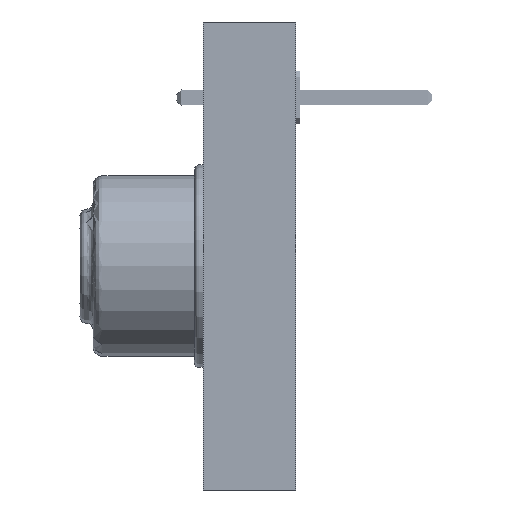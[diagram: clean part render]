
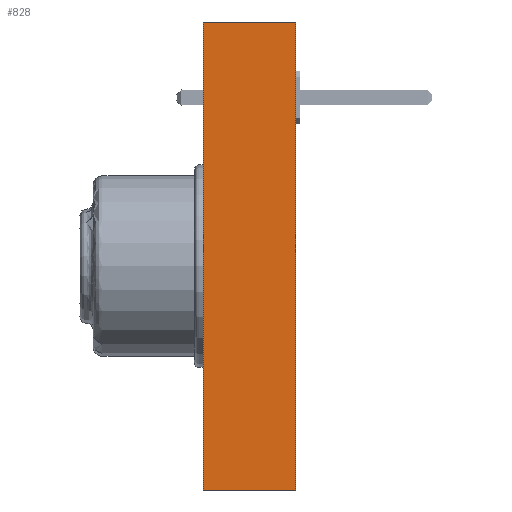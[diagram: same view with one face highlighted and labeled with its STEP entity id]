
A CAD part, left-side view. The second image highlights one B-rep face of the part: STEP entity #828.
In plain terms, the highlighted planar face has unit normal (-1, 0, 0).
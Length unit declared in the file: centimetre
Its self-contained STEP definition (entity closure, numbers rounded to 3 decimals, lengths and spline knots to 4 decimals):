
#12=LINE('',#1318,#108);
#13=LINE('',#1321,#109);
#14=LINE('',#1323,#110);
#15=LINE('',#1325,#111);
#108=VECTOR('',#1087,100.);
#109=VECTOR('',#1088,100.);
#110=VECTOR('',#1089,100.);
#111=VECTOR('',#1090,100.);
#204=PLANE('',#992);
#246=ORIENTED_EDGE('',*,*,#470,.F.);
#247=ORIENTED_EDGE('',*,*,#471,.T.);
#248=ORIENTED_EDGE('',*,*,#472,.T.);
#249=ORIENTED_EDGE('',*,*,#473,.F.);
#470=EDGE_CURVE('',#582,#583,#12,.T.);
#471=EDGE_CURVE('',#582,#584,#13,.T.);
#472=EDGE_CURVE('',#584,#585,#14,.T.);
#473=EDGE_CURVE('',#583,#585,#15,.T.);
#582=VERTEX_POINT('',#1319);
#583=VERTEX_POINT('',#1320);
#584=VERTEX_POINT('',#1322);
#585=VERTEX_POINT('',#1324);
#678=EDGE_LOOP('',(#246,#247,#248,#249));
#750=FACE_BOUND('',#678,.T.);
#828=ADVANCED_FACE('',(#750),#204,.T.);
#992=AXIS2_PLACEMENT_3D('',#1317,#1085,#1086);
#1085=DIRECTION('',(-1.,0.,0.));
#1086=DIRECTION('',(0.,1.,0.));
#1087=DIRECTION('',(0.,1.,0.));
#1088=DIRECTION('',(0.,0.,1.));
#1089=DIRECTION('',(0.,1.,0.));
#1090=DIRECTION('',(0.,0.,1.));
#1317=CARTESIAN_POINT('',(-0.2184,-0.4,0.8589));
#1318=CARTESIAN_POINT('',(-0.2184,-0.4,-0.2171));
#1319=CARTESIAN_POINT('',(-0.2184,-0.4,-0.2171));
#1320=CARTESIAN_POINT('',(-0.2184,0.02,-0.2171));
#1321=CARTESIAN_POINT('',(-0.2184,-0.4,0.8589));
#1322=CARTESIAN_POINT('',(-0.2184,-0.4,1.9099));
#1323=CARTESIAN_POINT('',(-0.2184,-0.4,1.9099));
#1324=CARTESIAN_POINT('',(-0.2184,0.02,1.9099));
#1325=CARTESIAN_POINT('',(-0.2184,0.02,0.8589));
